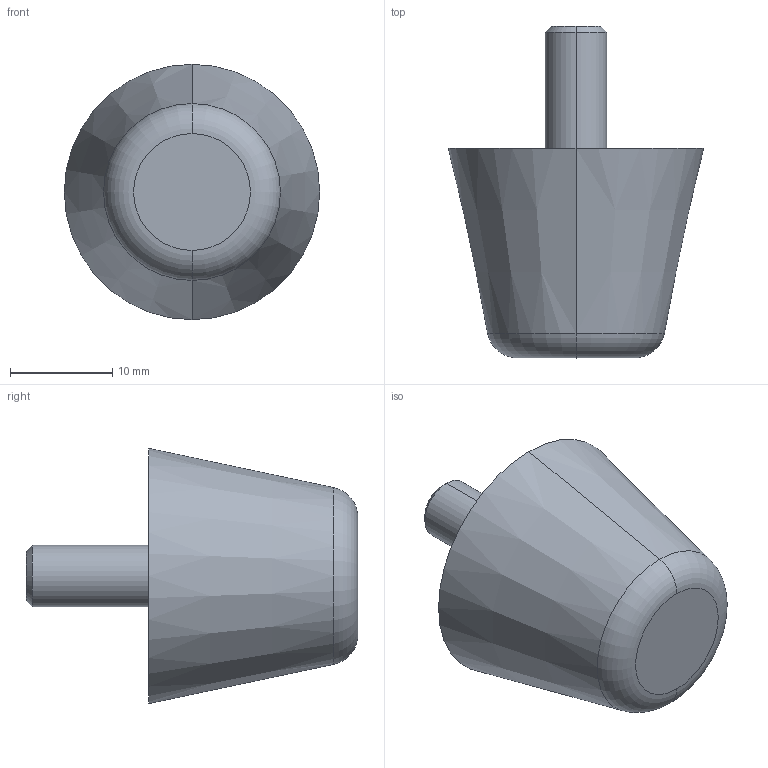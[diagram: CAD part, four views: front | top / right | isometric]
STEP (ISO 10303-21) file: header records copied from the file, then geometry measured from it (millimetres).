
FILE_DESCRIPTION (( 'STEP AP214' ), '1' );
FILE_NAME ('253-25-M6-12-40.step', '2023-03-24T07:37:21', ( '' ), ( '' ), 'SwSTEP 2.0', 'SolidWorks 2022', '' );
FILE_SCHEMA (( 'AUTOMOTIVE_DESIGN' ));
Length unit declared in the file: millimetre
Products named in the file (1): 253-25-M6-12-40
Bounding box: 25 x 32.49 x 25 mm (x, y, z)
Volume: 7242.9 mm3; surface area: 2236.2 mm2
Topology: 1 solids, 1 shells, 14 faces, 26 edges, 16 vertices
Faces by surface type: cone 6, plane 4, cylinder 2, torus 2
Entity records: 500 total; most frequent: DIRECTION 74, CARTESIAN_POINT 57, ORIENTED_EDGE 52, AXIS2_PLACEMENT_3D 33, EDGE_CURVE 26, CIRCLE 18, VERTEX_POINT 16, EDGE_LOOP 16
